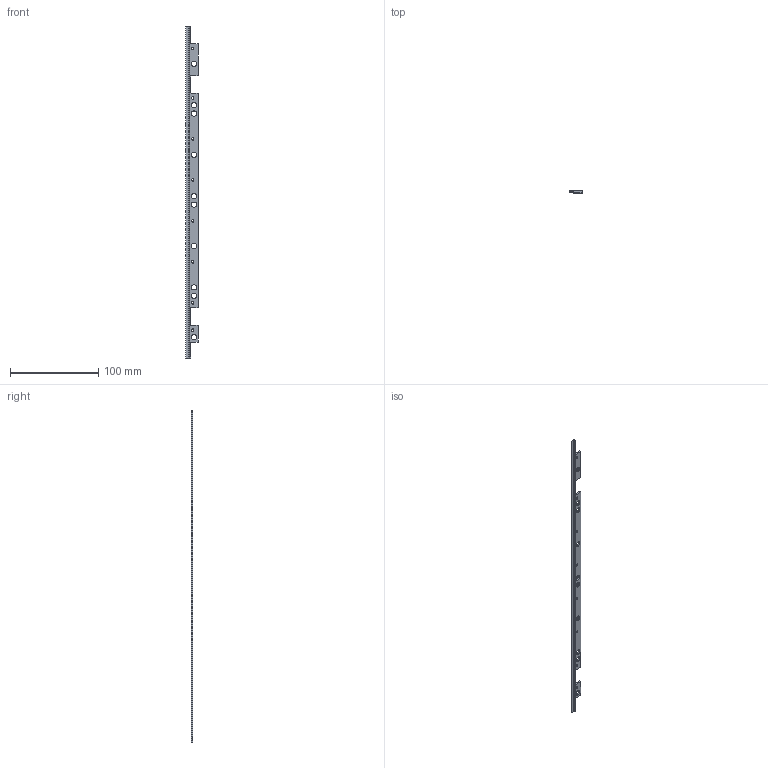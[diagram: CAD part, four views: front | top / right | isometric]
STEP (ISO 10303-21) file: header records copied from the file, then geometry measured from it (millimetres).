
FILE_DESCRIPTION(/* description */ (''),/* implementation_level */ '2;1');
FILE_NAME(/* name */ '210428_TubesOnTop_v1_lam1.prt.stp',/* time_stamp */ '2021-09-10T14:14:20+02:00',/* author */ (''),/* organization */ (''),/* preprocessor_version */ 'ST-DEVELOPER v16.7',/* originating_system */ 'SIEMENS PLM Software NX 1919',/* authorisation */ '');
FILE_SCHEMA (('AUTOMOTIVE_DESIGN { 1 0 10303 214 3 1 1 1 }'));
Length unit declared in the file: millimetre
Products named in the file (1): 210428_TubesOnTop_v1_lam1
Bounding box: 14 x 2 x 375.9 mm (x, y, z)
Volume: 6394.5 mm3; surface area: 10508 mm2
Topology: 1 solids, 1 shells, 53 faces, 167 edges, 116 vertices
Faces by surface type: cylinder 25, plane 20, cone 8
Full cylindrical faces by diameter (mm): 2.7 x8, 6 x10
Entity records: 1659 total; most frequent: DIRECTION 285, CARTESIAN_POINT 267, ORIENTED_EDGE 238, EDGE_CURVE 119, EDGE_LOOP 115, AXIS2_PLACEMENT_3D 112, VERTEX_POINT 94, FACE_BOUND 90
